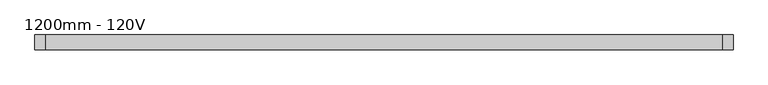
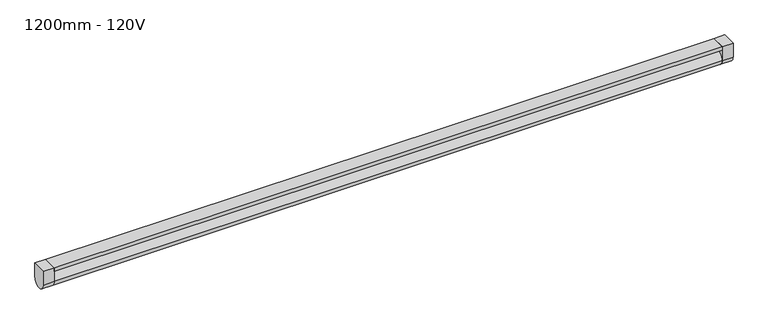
"""IFC4 building model written with IfcOpenShell, lengths in millimetres: light fixture geometry, M_Foco empotrado - Tira : 1200mm - 120V."""

from ifc_helpers import new_model, si_unit, point, frame, frame_2d, origin, place, context, project, spatial, polyline, circle_curve, trimmed, segment, composite_curve, outline, extrude, source, transform, mapped, element, save


def light_fixture_1200mm_120v_d22b4eb0(model_context):
    return source(origin(), model_context, "Body", "SweptSolid", [
        extrude(outline(polyline([(580.95, -205.9435765), (580.95, -231.3435765), (-580.95, -231.3435765), (-580.95, -205.9435765), (580.95, -205.9435765)])), frame((0.0, 0.0, -6.35), z_axis=(0.0, 0.0, 1.0), x_axis=(1.0, 0.0, 0.0)), (0.0, 0.0, 1.0), 6.35),
        extrude(outline(composite_curve([segment(trimmed(circle_curve(frame_2d((-218.6435765, -25.4)), 12.7), [point((-205.9435765, -25.4))], [point((-231.3435765, -25.4))], False, "CARTESIAN"), True, "CONTINUOUS"), segment(polyline([(-231.3435765, -25.4), (-231.3435765, 0.0), (-205.9435765, 0.0), (-205.9435765, -25.4)]), True, "CONTINUOUS")], self_intersect=False)), frame((-600.0, 0.0, 0.0), z_axis=(1.0, 0.0, 0.0), x_axis=(0.0, 1.0, 0.0)), (0.0, 0.0, 1.0), 19.05),
        extrude(outline(composite_curve([segment(trimmed(circle_curve(frame_2d((-218.6435765, -25.4)), 12.7), [point((-205.9435765, -25.4))], [point((-231.3435765, -25.4))], False, "CARTESIAN"), True, "CONTINUOUS"), segment(polyline([(-231.3435765, -25.4), (-231.3435765, 0.0), (-205.9435765, 0.0), (-205.9435765, -25.4)]), True, "CONTINUOUS")], self_intersect=False)), frame((580.95, 0.0, 0.0), z_axis=(1.0, 0.0, 0.0), x_axis=(0.0, 1.0, 0.0)), (0.0, 0.0, 1.0), 19.05),
        extrude(outline(composite_curve([segment(trimmed(circle_curve(frame_2d((-218.6435765, -25.4)), 12.7), [point((-231.3435765, -25.4))], [point((-205.9435765, -25.4))], False, "CARTESIAN"), True, "CONTINUOUS"), segment(trimmed(circle_curve(frame_2d((-218.6435765, -25.4)), 12.7), [point((-205.9435765, -25.4))], [point((-231.3435765, -25.4))], False, "CARTESIAN"), True, "CONTINUOUS")], self_intersect=False)), frame((-580.95, 0.0, 0.0), z_axis=(1.0, 0.0, 0.0), x_axis=(0.0, 1.0, 0.0)), (0.0, 0.0, 1.0), 1161.9),
    ])


if __name__ == "__main__":
    model = new_model("IFC4")
    model_context = context("Model", 3, world=origin())
    ifc_project = project(units=[si_unit("LENGTHUNIT", "METRE", prefix="MILLI")], contexts=[model_context])
    site = spatial("IfcSite", under=ifc_project)
    building = spatial("IfcBuilding", under=site)
    placement = place(None, origin())
    light_fixture_1200mm_120v_shape = light_fixture_1200mm_120v_d22b4eb0(model_context)
    element("IfcLightFixture", 1, ObjectType="M_Foco empotrado - Tira : 1200mm - 120V", at=placement, inside=building, context=model_context, shape_type="MappedRepresentation", body=[
        mapped(light_fixture_1200mm_120v_shape, transform((0.0, 0.0, 0.0), x_axis=(1.0, 0.0, 0.0), y_axis=(0.0, 1.0, 0.0), z_axis=(0.0, 0.0, 1.0))),
    ])
    save(model, "model.ifc")
